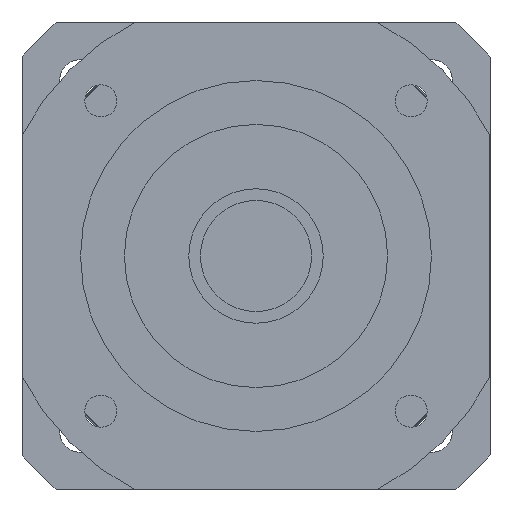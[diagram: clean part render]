
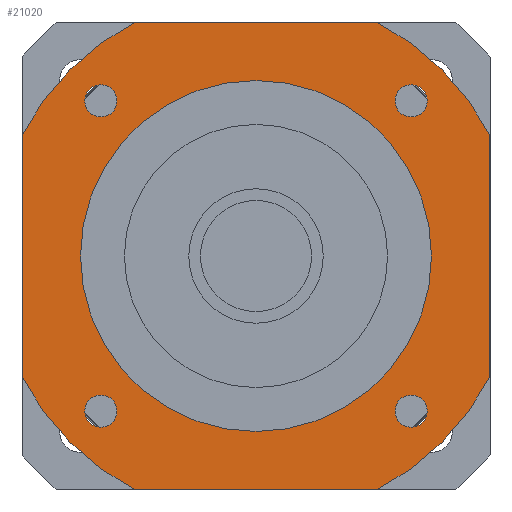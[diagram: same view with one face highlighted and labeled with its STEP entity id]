
A CAD part, left-side view. The second image highlights one B-rep face of the part: STEP entity #21020.
In plain terms, the highlighted planar face has unit normal (-1, 0, 0) as drawn and (0, 0, -1) by its records, which use the part's own axes.
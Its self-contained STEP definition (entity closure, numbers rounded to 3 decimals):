
#19350=CARTESIAN_POINT('',(-23.767,26.517,-42.));
#19360=VERTEX_POINT('',#19350);
#19390=CARTESIAN_POINT('',(-26.517,26.517,-42.));
#19400=DIRECTION('',(0.,0.,-1.));
#19410=DIRECTION('',(-1.,0.,0.));
#19420=AXIS2_PLACEMENT_3D('',#19390,#19400,#19410);
#19430=CIRCLE('',#19420,2.75);
#19440=CARTESIAN_POINT('',(-29.267,26.517,-42.));
#19450=VERTEX_POINT('',#19440);
#19460=EDGE_CURVE('',#19450,#19360,#19430,.T.);
#19580=CARTESIAN_POINT('',(40.,40.,-42.));
#19590=DIRECTION('',(0.,0.,-1.));
#19600=DIRECTION('',(1.,0.,0.));
#19610=AXIS2_PLACEMENT_3D('',#19580,#19590,#19600);
#19620=PLANE('',#19610);
#19630=CARTESIAN_POINT('',(-26.517,-26.517,-42.));
#19640=DIRECTION('',(0.,0.,-1.));
#19650=DIRECTION('',(0.,-1.,0.));
#19660=AXIS2_PLACEMENT_3D('',#19630,#19640,#19650);
#19670=CIRCLE('',#19660,2.75);
#19680=CARTESIAN_POINT('',(-26.517,-29.267,-42.));
#19690=VERTEX_POINT('',#19680);
#19700=CARTESIAN_POINT('',(-26.517,-23.767,-42.));
#19710=VERTEX_POINT('',#19700);
#19720=EDGE_CURVE('',#19690,#19710,#19670,.T.);
#19730=ORIENTED_EDGE('',*,*,#19720,.F.);
#19740=EDGE_CURVE('',#19710,#19690,#19670,.T.);
#19750=ORIENTED_EDGE('',*,*,#19740,.F.);
#19760=EDGE_LOOP('',(#19750,#19730));
#19770=FACE_BOUND('',#19760,.T.);
#19780=ORIENTED_EDGE('',*,*,#19460,.F.);
#19790=EDGE_CURVE('',#19360,#19450,#19430,.T.);
#19800=ORIENTED_EDGE('',*,*,#19790,.F.);
#19810=EDGE_LOOP('',(#19800,#19780));
#19820=FACE_BOUND('',#19810,.T.);
#19830=CARTESIAN_POINT('',(26.517,26.517,-42.));
#19840=DIRECTION('',(0.,0.,-1.));
#19850=DIRECTION('',(0.,1.,0.));
#19860=AXIS2_PLACEMENT_3D('',#19830,#19840,#19850);
#19870=CIRCLE('',#19860,2.75);
#19880=CARTESIAN_POINT('',(26.517,29.267,-42.));
#19890=VERTEX_POINT('',#19880);
#19900=CARTESIAN_POINT('',(26.517,23.767,-42.));
#19910=VERTEX_POINT('',#19900);
#19920=EDGE_CURVE('',#19890,#19910,#19870,.T.);
#19930=ORIENTED_EDGE('',*,*,#19920,.F.);
#19940=EDGE_CURVE('',#19910,#19890,#19870,.T.);
#19950=ORIENTED_EDGE('',*,*,#19940,.F.);
#19960=EDGE_LOOP('',(#19950,#19930));
#19970=FACE_BOUND('',#19960,.T.);
#19980=CARTESIAN_POINT('',(0.,0.,
-42.));
#19990=DIRECTION('',(0.,0.,1.));
#20000=DIRECTION('',(0.,1.,0.));
#20010=AXIS2_PLACEMENT_3D('',#19980,#19990,#20000);
#20020=CIRCLE('',#20010,30.);
#20030=CARTESIAN_POINT('',(-30.,0.,-42.));
#20040=VERTEX_POINT('',#20030);
#20050=CARTESIAN_POINT('',(30.,0.,-42.));
#20060=VERTEX_POINT('',#20050);
#20070=EDGE_CURVE('',#20040,#20060,#20020,.T.);
#20080=ORIENTED_EDGE('',*,*,#20070,.T.);
#20090=CARTESIAN_POINT('',(0.,30.,-42.));
#20100=VERTEX_POINT('',#20090);
#20110=EDGE_CURVE('',#20100,#20040,#20020,.T.);
#20120=ORIENTED_EDGE('',*,*,#20110,.T.);
#20130=EDGE_CURVE('',#20060,#20100,#20020,.T.);
#20140=ORIENTED_EDGE('',*,*,#20130,.T.);
#20150=EDGE_LOOP('',(#20140,#20120,#20080));
#20160=FACE_BOUND('',#20150,.T.);
#20170=CARTESIAN_POINT('',(-40.,40.,-42.));
#20180=DIRECTION('',(1.,0.,0.));
#20190=VECTOR('',#20180,1000.);
#20200=LINE('',#20170,#20190);
#20210=CARTESIAN_POINT('',(-20.616,40.,-42.));
#20220=VERTEX_POINT('',#20210);
#20230=CARTESIAN_POINT('',(20.616,40.,-42.));
#20240=VERTEX_POINT('',#20230);
#20250=EDGE_CURVE('',#20220,#20240,#20200,.T.);
#20260=ORIENTED_EDGE('',*,*,#20250,.T.);
#20270=CARTESIAN_POINT('',(0.,0.,
-42.));
#20280=DIRECTION('',(0.,0.,-1.));
#20290=DIRECTION('',(1.,0.,0.));
#20300=AXIS2_PLACEMENT_3D('',#20270,#20280,#20290);
#20310=CIRCLE('',#20300,45.);
#20320=CARTESIAN_POINT('',(-40.,20.616,-42.));
#20330=VERTEX_POINT('',#20320);
#20340=EDGE_CURVE('',#20330,#20220,#20310,.T.);
#20350=ORIENTED_EDGE('',*,*,#20340,.T.);
#20360=CARTESIAN_POINT('',(-40.,-40.,-42.));
#20370=DIRECTION('',(0.,1.,0.));
#20380=VECTOR('',#20370,1000.);
#20390=LINE('',#20360,#20380);
#20400=CARTESIAN_POINT('',(-40.,-20.616,-42.));
#20410=VERTEX_POINT('',#20400);
#20420=EDGE_CURVE('',#20410,#20330,#20390,.T.);
#20430=ORIENTED_EDGE('',*,*,#20420,.T.);
#20440=CARTESIAN_POINT('',(0.,0.,
-42.));
#20450=DIRECTION('',(0.,0.,-1.));
#20460=DIRECTION('',(1.,0.,0.));
#20470=AXIS2_PLACEMENT_3D('',#20440,#20450,#20460);
#20480=CIRCLE('',#20470,45.);
#20490=CARTESIAN_POINT('',(-20.616,-40.,-42.));
#20500=VERTEX_POINT('',#20490);
#20510=EDGE_CURVE('',#20500,#20410,#20480,.T.);
#20520=ORIENTED_EDGE('',*,*,#20510,.T.);
#20530=CARTESIAN_POINT('',(40.,-40.,-42.));
#20540=DIRECTION('',(-1.,0.,0.));
#20550=VECTOR('',#20540,1000.);
#20560=LINE('',#20530,#20550);
#20570=CARTESIAN_POINT('',(20.616,-40.,-42.));
#20580=VERTEX_POINT('',#20570);
#20590=EDGE_CURVE('',#20580,#20500,#20560,.T.);
#20600=ORIENTED_EDGE('',*,*,#20590,.T.);
#20610=CARTESIAN_POINT('',(0.,0.,
-42.));
#20620=DIRECTION('',(0.,0.,-1.));
#20630=DIRECTION('',(1.,0.,0.));
#20640=AXIS2_PLACEMENT_3D('',#20610,#20620,#20630);
#20650=CIRCLE('',#20640,45.);
#20660=CARTESIAN_POINT('',(40.,-20.616,-42.));
#20670=VERTEX_POINT('',#20660);
#20680=EDGE_CURVE('',#20670,#20580,#20650,.T.);
#20690=ORIENTED_EDGE('',*,*,#20680,.T.);
#20700=CARTESIAN_POINT('',(40.,40.,-42.));
#20710=DIRECTION('',(0.,-1.,0.));
#20720=VECTOR('',#20710,1000.);
#20730=LINE('',#20700,#20720);
#20740=CARTESIAN_POINT('',(40.,20.616,-42.));
#20750=VERTEX_POINT('',#20740);
#20760=EDGE_CURVE('',#20750,#20670,#20730,.T.);
#20770=ORIENTED_EDGE('',*,*,#20760,.T.);
#20780=CARTESIAN_POINT('',(0.,0.,
-42.));
#20790=DIRECTION('',(0.,0.,-1.));
#20800=DIRECTION('',(1.,0.,0.));
#20810=AXIS2_PLACEMENT_3D('',#20780,#20790,#20800);
#20820=CIRCLE('',#20810,45.);
#20830=EDGE_CURVE('',#20240,#20750,#20820,.T.);
#20840=ORIENTED_EDGE('',*,*,#20830,.T.);
#20850=EDGE_LOOP('',(#20840,#20770,#20690,#20600,#20520,#20430,#20350,
#20260));
#20860=FACE_OUTER_BOUND('',#20850,.T.);
#20870=CARTESIAN_POINT('',(26.517,-26.517,-42.));
#20880=DIRECTION('',(0.,0.,-1.));
#20890=DIRECTION('',(1.,0.,0.));
#20900=AXIS2_PLACEMENT_3D('',#20870,#20880,#20890);
#20910=CIRCLE('',#20900,2.75);
#20920=CARTESIAN_POINT('',(29.267,-26.517,-42.));
#20930=VERTEX_POINT('',#20920);
#20940=CARTESIAN_POINT('',(23.767,-26.517,-42.));
#20950=VERTEX_POINT('',#20940);
#20960=EDGE_CURVE('',#20930,#20950,#20910,.T.);
#20970=ORIENTED_EDGE('',*,*,#20960,.F.);
#20980=EDGE_CURVE('',#20950,#20930,#20910,.T.);
#20990=ORIENTED_EDGE('',*,*,#20980,.F.);
#21000=EDGE_LOOP('',(#20990,#20970));
#21010=FACE_BOUND('',#21000,.T.);
#21020=ADVANCED_FACE('',(#19770,#19820,#19970,#20160,#20860,#21010),
#19620,.T.);
